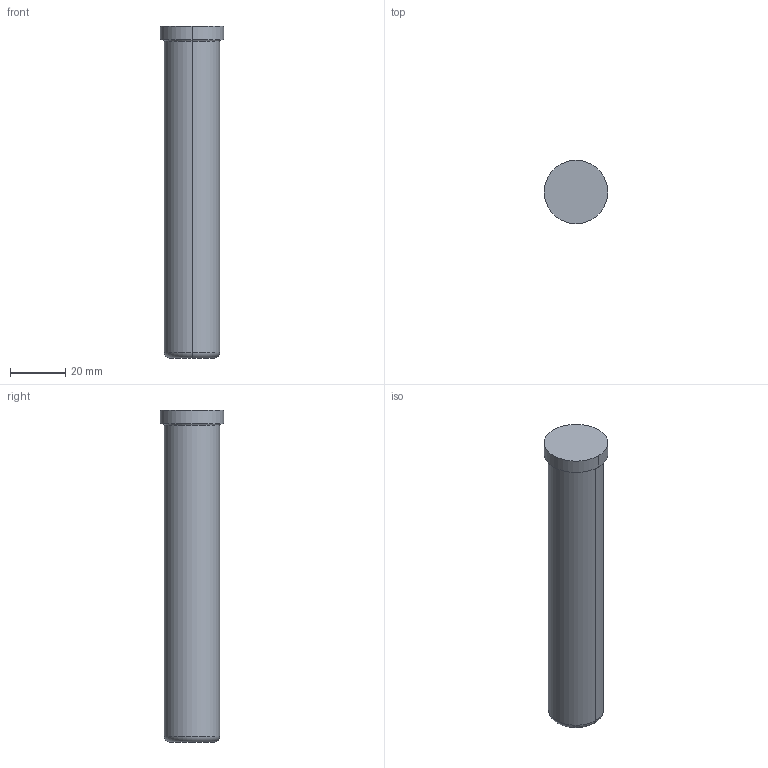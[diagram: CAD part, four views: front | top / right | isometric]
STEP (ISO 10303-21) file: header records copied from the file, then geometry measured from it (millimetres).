
FILE_DESCRIPTION(/* description */ (''),/* implementation_level */ '2;1');
FILE_NAME(/* name */ '3d_sgph20-120_00273_r00.stp',/* time_stamp */ '2011-01-10T14:11:07+09:00',/* author */ ('MISUMI'),/* organization */ (''),/* preprocessor_version */ 'ST-DEVELOPER v11',/* originating_system */ 'UGS - NX 5.0',/* authorisation */ '');
FILE_SCHEMA (('CONFIG_CONTROL_DESIGN'));
Length unit declared in the file: millimetre
Products named in the file (1): 3d_sgph20-120_00273_r00
Bounding box: 23 x 23 x 120 mm (x, y, z)
Volume: 38157.6 mm3; surface area: 8348.8 mm2
Topology: 1 solids, 1 shells, 11 faces, 20 edges, 12 vertices
Faces by surface type: cylinder 4, torus 4, plane 3
Entity records: 364 total; most frequent: DIRECTION 60, CARTESIAN_POINT 44, ORIENTED_EDGE 40, AXIS2_PLACEMENT_3D 28, EDGE_CURVE 20, CIRCLE 16, EDGE_LOOP 12, VERTEX_POINT 12
